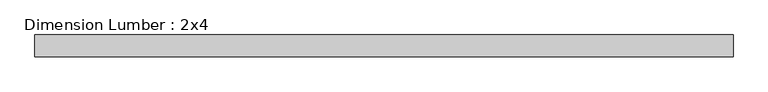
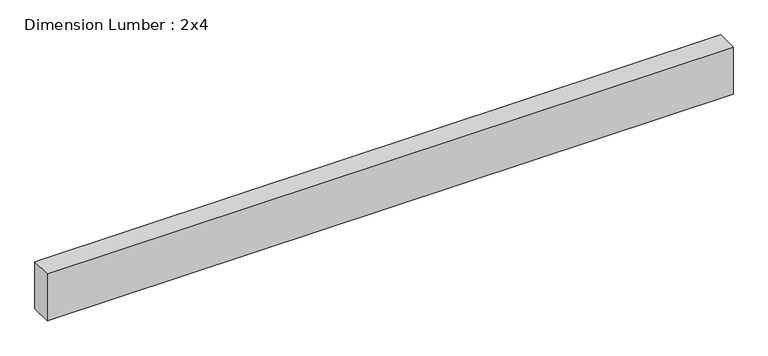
"""IFC4 building model written with IfcOpenShell, lengths in millimetres: beam geometry, Dimension Lumber : 2x4."""

from ifc_helpers import new_model, si_unit, frame, origin, place, context, project, spatial, polyline, outline, extrude, source, transform, mapped, element, save


def dimension_lumber_2x4_7f95a9ed(model_context):
    return source(origin(), model_context, "Body", "SweptSolid", [
        extrude(outline(polyline([(612.3779134, 19.05), (612.3779134, -19.05), (-612.3779134, -19.05), (-612.3779134, 19.05), (612.3779134, 19.05)])), frame((0.0, 0.0, -44.45), z_axis=(0.0, 0.0, 1.0), x_axis=(1.0, 0.0, 0.0)), (0.0, 0.0, 1.0), 88.9),
    ])


if __name__ == "__main__":
    model = new_model("IFC4")
    model_context = context("Model", 3, world=origin())
    ifc_project = project(units=[si_unit("LENGTHUNIT", "METRE", prefix="MILLI")], contexts=[model_context])
    site = spatial("IfcSite", under=ifc_project)
    building = spatial("IfcBuilding", under=site)
    placement = place(None, origin())
    dimension_lumber_2x4_shape = dimension_lumber_2x4_7f95a9ed(model_context)
    element("IfcBeam", 1, ObjectType="Dimension Lumber : 2x4", at=placement, inside=building, context=model_context, shape_type="MappedRepresentation", body=[
        mapped(dimension_lumber_2x4_shape, transform((0.0, 0.0, 0.0), x_axis=(1.0, 0.0, 0.0), y_axis=(0.0, 1.0, 0.0), z_axis=(0.0, 0.0, 1.0))),
    ])
    save(model, "model.ifc")
